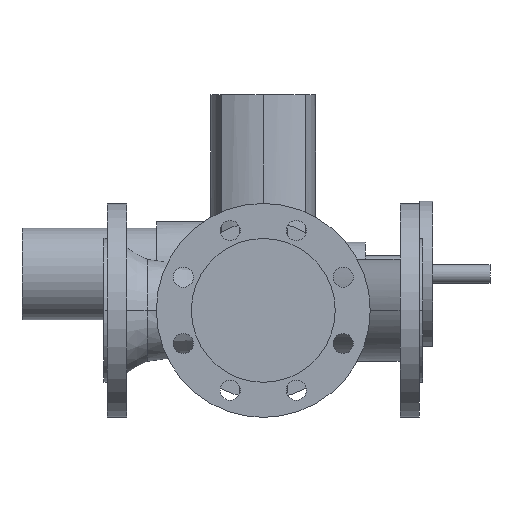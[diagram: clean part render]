
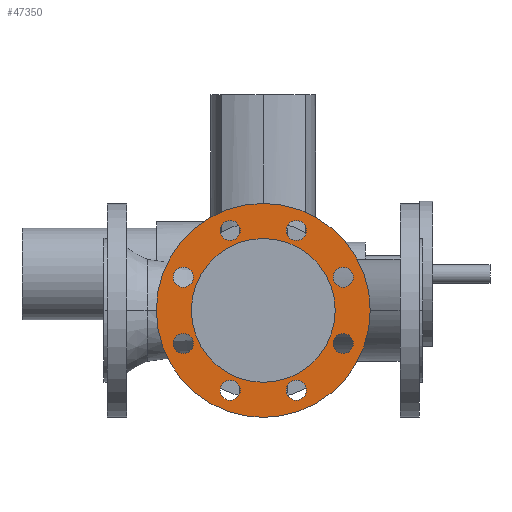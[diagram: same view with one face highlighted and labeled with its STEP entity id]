
A CAD part, front view. The second image highlights one B-rep face of the part: STEP entity #47350.
In plain terms, the highlighted planar face has unit normal (0, -1, 0).
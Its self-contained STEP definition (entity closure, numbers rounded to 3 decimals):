
#3200=CARTESIAN_POINT('',(96.,-146.5,0.));
#3210=VERTEX_POINT('',#3200);
#3260=CARTESIAN_POINT('',(175.,-146.5,0.));
#3270=DIRECTION('',(0.,-1.,0.));
#3280=DIRECTION('',(1.,0.,0.));
#3290=AXIS2_PLACEMENT_3D('',#3260,#3270,#3280);
#3300=CIRCLE('',#3290,79.);
#3310=CARTESIAN_POINT('',(254.,-146.5,0.));
#3320=VERTEX_POINT('',#3310);
#3330=EDGE_CURVE('',#3320,#3210,#3300,.T.);
#11360=CARTESIAN_POINT('',(292.5,-146.5,0.));
#11370=VERTEX_POINT('',#11360);
#11400=CARTESIAN_POINT('',(175.,-146.5,0.));
#11410=DIRECTION('',(0.,1.,0.));
#11420=DIRECTION('',(1.,0.,0.));
#11430=AXIS2_PLACEMENT_3D('',#11400,#11410,#11420);
#11440=CIRCLE('',#11430,117.5);
#11450=CARTESIAN_POINT('',(57.5,-146.5,0.));
#11460=VERTEX_POINT('',#11450);
#11470=EDGE_CURVE('',#11460,#11370,#11440,.T.);
#11680=CARTESIAN_POINT('',(273.769,-146.5,-36.355));
#11690=VERTEX_POINT('',#11680);
#11720=CARTESIAN_POINT('',(262.769,-146.5,-36.355));
#11730=DIRECTION('',(0.,1.,0.));
#11740=DIRECTION('',(1.,0.,0.));
#11750=AXIS2_PLACEMENT_3D('',#11720,#11730,#11740);
#11760=CIRCLE('',#11750,11.);
#11770=CARTESIAN_POINT('',(251.769,-146.5,-36.355));
#11780=VERTEX_POINT('',#11770);
#11790=EDGE_CURVE('',#11690,#11780,#11760,.T.);
#12000=CARTESIAN_POINT('',(251.769,-146.5,36.355));
#12010=VERTEX_POINT('',#12000);
#12090=CARTESIAN_POINT('',(273.769,-146.5,36.355));
#12100=VERTEX_POINT('',#12090);
#12130=CARTESIAN_POINT('',(262.769,-146.5,36.355));
#12140=DIRECTION('',(0.,1.,0.));
#12150=DIRECTION('',(1.,0.,0.));
#12160=AXIS2_PLACEMENT_3D('',#12130,#12140,#12150);
#12170=CIRCLE('',#12160,11.);
#12180=EDGE_CURVE('',#12100,#12010,#12170,.T.);
#12320=CARTESIAN_POINT('',(222.355,-146.5,-87.769));
#12330=VERTEX_POINT('',#12320);
#12360=CARTESIAN_POINT('',(211.355,-146.5,-87.769));
#12370=DIRECTION('',(0.,1.,0.));
#12380=DIRECTION('',(1.,0.,0.));
#12390=AXIS2_PLACEMENT_3D('',#12360,#12370,#12380);
#12400=CIRCLE('',#12390,11.);
#12410=CARTESIAN_POINT('',(200.355,-146.5,-87.769));
#12420=VERTEX_POINT('',#12410);
#12430=EDGE_CURVE('',#12330,#12420,#12400,.T.);
#12640=CARTESIAN_POINT('',(222.355,-146.5,87.769));
#12650=VERTEX_POINT('',#12640);
#12680=CARTESIAN_POINT('',(211.355,-146.5,87.769));
#12690=DIRECTION('',(0.,1.,0.));
#12700=DIRECTION('',(1.,0.,0.));
#12710=AXIS2_PLACEMENT_3D('',#12680,#12690,#12700);
#12720=CIRCLE('',#12710,11.);
#12730=CARTESIAN_POINT('',(200.355,-146.5,87.769));
#12740=VERTEX_POINT('',#12730);
#12750=EDGE_CURVE('',#12650,#12740,#12720,.T.);
#12960=CARTESIAN_POINT('',(127.645,-146.5,-87.769));
#12970=VERTEX_POINT('',#12960);
#13000=CARTESIAN_POINT('',(138.645,-146.5,-87.769));
#13010=DIRECTION('',(0.,1.,0.));
#13020=DIRECTION('',(1.,0.,0.));
#13030=AXIS2_PLACEMENT_3D('',#13000,#13010,#13020);
#13040=CIRCLE('',#13030,11.);
#13050=CARTESIAN_POINT('',(149.645,-146.5,-87.769));
#13060=VERTEX_POINT('',#13050);
#13070=EDGE_CURVE('',#12970,#13060,#13040,.T.);
#13280=CARTESIAN_POINT('',(127.645,-146.5,87.769));
#13290=VERTEX_POINT('',#13280);
#13370=CARTESIAN_POINT('',(149.645,-146.5,87.769));
#13380=VERTEX_POINT('',#13370);
#13410=CARTESIAN_POINT('',(138.645,-146.5,87.769));
#13420=DIRECTION('',(0.,1.,0.));
#13430=DIRECTION('',(1.,0.,0.));
#13440=AXIS2_PLACEMENT_3D('',#13410,#13420,#13430);
#13450=CIRCLE('',#13440,11.);
#13460=EDGE_CURVE('',#13380,#13290,#13450,.T.);
#13600=CARTESIAN_POINT('',(98.231,-146.5,-36.355));
#13610=VERTEX_POINT('',#13600);
#13640=CARTESIAN_POINT('',(87.231,-146.5,-36.355));
#13650=DIRECTION('',(0.,1.,0.));
#13660=DIRECTION('',(1.,0.,0.));
#13670=AXIS2_PLACEMENT_3D('',#13640,#13650,#13660);
#13680=CIRCLE('',#13670,11.);
#13690=CARTESIAN_POINT('',(76.231,-146.5,-36.355));
#13700=VERTEX_POINT('',#13690);
#13710=EDGE_CURVE('',#13610,#13700,#13680,.T.);
#13920=CARTESIAN_POINT('',(98.231,-146.5,36.355));
#13930=VERTEX_POINT('',#13920);
#14010=CARTESIAN_POINT('',(76.231,-146.5,36.355));
#14020=VERTEX_POINT('',#14010);
#14050=CARTESIAN_POINT('',(87.231,-146.5,36.355));
#14060=DIRECTION('',(0.,1.,0.));
#14070=DIRECTION('',(1.,0.,0.));
#14080=AXIS2_PLACEMENT_3D('',#14050,#14060,#14070);
#14090=CIRCLE('',#14080,11.);
#14100=EDGE_CURVE('',#14020,#13930,#14090,.T.);
#46800=CARTESIAN_POINT('',(175.,-146.5,0.));
#46810=DIRECTION('',(0.,1.,0.));
#46820=DIRECTION('',(0.,0.,1.));
#46830=AXIS2_PLACEMENT_3D('',#46800,#46810,#46820);
#46840=PLANE('',#46830);
#46850=EDGE_CURVE('',#13930,#14020,#14090,.T.);
#46860=ORIENTED_EDGE('',*,*,#46850,.T.);
#46870=ORIENTED_EDGE('',*,*,#14100,.T.);
#46880=EDGE_LOOP('',(#46870,#46860));
#46890=FACE_BOUND('',#46880,.T.);
#46900=EDGE_CURVE('',#13700,#13610,#13680,.T.);
#46910=ORIENTED_EDGE('',*,*,#46900,.T.);
#46920=ORIENTED_EDGE('',*,*,#13710,.T.);
#46930=EDGE_LOOP('',(#46920,#46910));
#46940=FACE_BOUND('',#46930,.T.);
#46950=EDGE_CURVE('',#13290,#13380,#13450,.T.);
#46960=ORIENTED_EDGE('',*,*,#46950,.T.);
#46970=ORIENTED_EDGE('',*,*,#13460,.T.);
#46980=EDGE_LOOP('',(#46970,#46960));
#46990=FACE_BOUND('',#46980,.T.);
#47000=EDGE_CURVE('',#13060,#12970,#13040,.T.);
#47010=ORIENTED_EDGE('',*,*,#47000,.T.);
#47020=ORIENTED_EDGE('',*,*,#13070,.T.);
#47030=EDGE_LOOP('',(#47020,#47010));
#47040=FACE_BOUND('',#47030,.T.);
#47050=EDGE_CURVE('',#12740,#12650,#12720,.T.);
#47060=ORIENTED_EDGE('',*,*,#47050,.T.);
#47070=ORIENTED_EDGE('',*,*,#12750,.T.);
#47080=EDGE_LOOP('',(#47070,#47060));
#47090=FACE_BOUND('',#47080,.T.);
#47100=ORIENTED_EDGE('',*,*,#12430,.T.);
#47110=EDGE_CURVE('',#12420,#12330,#12400,.T.);
#47120=ORIENTED_EDGE('',*,*,#47110,.T.);
#47130=EDGE_LOOP('',(#47120,#47100));
#47140=FACE_BOUND('',#47130,.T.);
#47150=EDGE_CURVE('',#12010,#12100,#12170,.T.);
#47160=ORIENTED_EDGE('',*,*,#47150,.T.);
#47170=ORIENTED_EDGE('',*,*,#12180,.T.);
#47180=EDGE_LOOP('',(#47170,#47160));
#47190=FACE_BOUND('',#47180,.T.);
#47200=ORIENTED_EDGE('',*,*,#11790,.T.);
#47210=EDGE_CURVE('',#11780,#11690,#11760,.T.);
#47220=ORIENTED_EDGE('',*,*,#47210,.T.);
#47230=EDGE_LOOP('',(#47220,#47200));
#47240=FACE_BOUND('',#47230,.T.);
#47250=ORIENTED_EDGE('',*,*,#11470,.F.);
#47260=EDGE_CURVE('',#11370,#11460,#11440,.T.);
#47270=ORIENTED_EDGE('',*,*,#47260,.F.);
#47280=EDGE_LOOP('',(#47270,#47250));
#47290=FACE_OUTER_BOUND('',#47280,.T.);
#47300=ORIENTED_EDGE('',*,*,#3330,.F.);
#47310=EDGE_CURVE('',#3210,#3320,#3300,.T.);
#47320=ORIENTED_EDGE('',*,*,#47310,.F.);
#47330=EDGE_LOOP('',(#47320,#47300));
#47340=FACE_BOUND('',#47330,.T.);
#47350=ADVANCED_FACE('',(#46890,#46940,#46990,#47040,#47090,#47140,
#47190,#47240,#47290,#47340),#46840,.F.);
